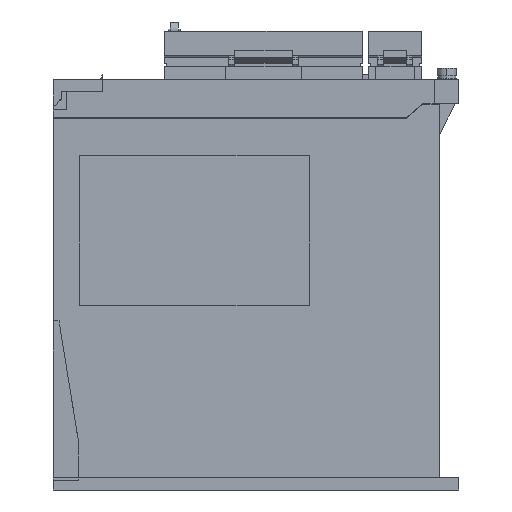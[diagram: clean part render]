
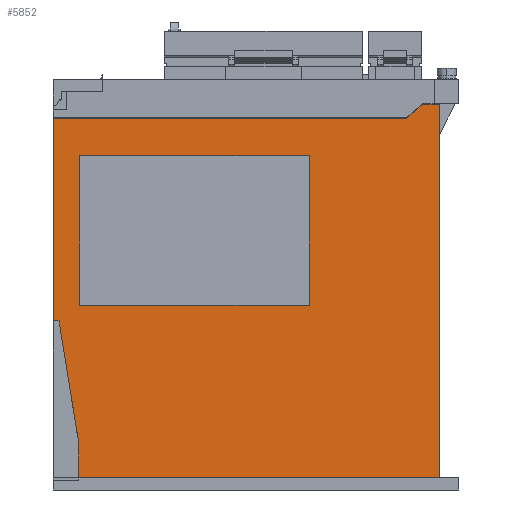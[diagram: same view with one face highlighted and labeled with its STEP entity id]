
A CAD part, left-side view. The second image highlights one B-rep face of the part: STEP entity #5852.
In plain terms, the highlighted planar face has unit normal (-1, 0, 0).
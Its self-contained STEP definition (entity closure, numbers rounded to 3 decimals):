
#1011 = VERTEX_POINT ( 'NONE', #20368 ) ;
#3157 = VERTEX_POINT ( 'NONE', #24053 ) ;
#3159 = EDGE_CURVE ( 'NONE', #3157, #3160, #24052, .T. ) ;
#3160 = VERTEX_POINT ( 'NONE', #24048 ) ;
#3404 = VERTEX_POINT ( 'NONE', #24467 ) ;
#3406 = EDGE_CURVE ( 'NONE', #3404, #3407, #24466, .T. ) ;
#3407 = VERTEX_POINT ( 'NONE', #24462 ) ;
#3655 = VERTEX_POINT ( 'NONE', #24882 ) ;
#3780 = VERTEX_POINT ( 'NONE', #25123 ) ;
#3782 = EDGE_CURVE ( 'NONE', #3655, #3780, #25122, .T. ) ;
#5643 = VERTEX_POINT ( 'NONE', #28388 ) ;
#5824 = ORIENTED_EDGE ( 'NONE', *, *, #5825, .T. ) ;
#5825 = EDGE_CURVE ( 'NONE', #1011, #3160, #28657, .T. ) ;
#5829 = ORIENTED_EDGE ( 'NONE', *, *, #5830, .F. ) ;
#5830 = EDGE_CURVE ( 'NONE', #5831, #5643, #28647, .T. ) ;
#5831 = VERTEX_POINT ( 'NONE', #28706 ) ;
#5832 = ORIENTED_EDGE ( 'NONE', *, *, #5833, .F. ) ;
#5833 = EDGE_CURVE ( 'NONE', #5857, #5831, #28705, .T. ) ;
#5834 = EDGE_LOOP ( 'NONE', ( #5835, #5836, #5839, #5842, #5909, #5910, #5912, #5913, #5824 ) ) ;
#5835 = ORIENTED_EDGE ( 'NONE', *, *, #3159, .F. ) ;
#5836 = ORIENTED_EDGE ( 'NONE', *, *, #5837, .F. ) ;
#5837 = EDGE_CURVE ( 'NONE', #5838, #3157, #28701, .T. ) ;
#5838 = VERTEX_POINT ( 'NONE', #28697 ) ;
#5839 = ORIENTED_EDGE ( 'NONE', *, *, #5840, .F. ) ;
#5840 = EDGE_CURVE ( 'NONE', #5841, #5838, #28696, .T. ) ;
#5841 = VERTEX_POINT ( 'NONE', #28692 ) ;
#5842 = ORIENTED_EDGE ( 'NONE', *, *, #5908, .F. ) ;
#5852 = ADVANCED_FACE ( 'NONE', ( #28677, #28740 ), #28739, .F. ) ;
#5853 = EDGE_LOOP ( 'NONE', ( #5854, #5858, #5829, #5832 ) ) ;
#5854 = ORIENTED_EDGE ( 'NONE', *, *, #5855, .F. ) ;
#5855 = EDGE_CURVE ( 'NONE', #5856, #5857, #28734, .T. ) ;
#5856 = VERTEX_POINT ( 'NONE', #28730 ) ;
#5857 = VERTEX_POINT ( 'NONE', #28729 ) ;
#5858 = ORIENTED_EDGE ( 'NONE', *, *, #5859, .F. ) ;
#5859 = EDGE_CURVE ( 'NONE', #5643, #5856, #28728, .T. ) ;
#5908 = EDGE_CURVE ( 'NONE', #3655, #5841, #28777, .T. ) ;
#5909 = ORIENTED_EDGE ( 'NONE', *, *, #3782, .T. ) ;
#5910 = ORIENTED_EDGE ( 'NONE', *, *, #5911, .T. ) ;
#5911 = EDGE_CURVE ( 'NONE', #3780, #3407, #28773, .T. ) ;
#5912 = ORIENTED_EDGE ( 'NONE', *, *, #3406, .F. ) ;
#5913 = ORIENTED_EDGE ( 'NONE', *, *, #5914, .T. ) ;
#5914 = EDGE_CURVE ( 'NONE', #3404, #1011, #28835, .T. ) ;
#20368 = CARTESIAN_POINT ( 'NONE',  ( -5., -5.5, 5.2 ) ) ;
#24048 = CARTESIAN_POINT ( 'NONE',  ( -5., -155., 5.2 ) ) ;
#24049 = DIRECTION ( 'NONE',  ( 0., 0., -1. ) ) ;
#24050 = VECTOR ( 'NONE', #24049, 1000. ) ;
#24051 = CARTESIAN_POINT ( 'NONE',  ( -5., -155., 318.924 ) ) ;
#24052 = LINE ( 'NONE', #24051, #24050 ) ;
#24053 = CARTESIAN_POINT ( 'NONE',  ( -5., -155., 159.8 ) ) ;
#24462 = CARTESIAN_POINT ( 'NONE',  ( -5., 2.577, 70. ) ) ;
#24463 = DIRECTION ( 'NONE',  ( 0., 0.159, 0.987 ) ) ;
#24464 = VECTOR ( 'NONE', #24463, 1000. ) ;
#24465 = CARTESIAN_POINT ( 'NONE',  ( -5., -5.5, 20. ) ) ;
#24466 = LINE ( 'NONE', #24465, #24464 ) ;
#24467 = CARTESIAN_POINT ( 'NONE',  ( -5., -5.5, 20. ) ) ;
#24882 = CARTESIAN_POINT ( 'NONE',  ( -5., 5., 154. ) ) ;
#25119 = DIRECTION ( 'NONE',  ( 0., 0., -1. ) ) ;
#25120 = VECTOR ( 'NONE', #25119, 1000. ) ;
#25121 = CARTESIAN_POINT ( 'NONE',  ( -5., 5., 318.924 ) ) ;
#25122 = LINE ( 'NONE', #25121, #25120 ) ;
#25123 = CARTESIAN_POINT ( 'NONE',  ( -5., 5., 70. ) ) ;
#28388 = CARTESIAN_POINT ( 'NONE',  ( -5., -6., 138.5 ) ) ;
#28645 = DIRECTION ( 'NONE',  ( 0., 1., 0. ) ) ;
#28646 = CARTESIAN_POINT ( 'NONE',  ( -5., -6., 138.5 ) ) ;
#28647 = LINE ( 'NONE', #28646, #28707 ) ;
#28654 = DIRECTION ( 'NONE',  ( 0., -1., 0. ) ) ;
#28655 = VECTOR ( 'NONE', #28654, 1000. ) ;
#28656 = CARTESIAN_POINT ( 'NONE',  ( -5., -5.5, 5.2 ) ) ;
#28657 = LINE ( 'NONE', #28656, #28655 ) ;
#28677 = FACE_BOUND ( 'NONE', #5853, .T. ) ;
#28692 = CARTESIAN_POINT ( 'NONE',  ( -5., -141.328, 154. ) ) ;
#28693 = DIRECTION ( 'NONE',  ( 0., -0.755, 0.656 ) ) ;
#28694 = VECTOR ( 'NONE', #28693, 1000. ) ;
#28695 = CARTESIAN_POINT ( 'NONE',  ( -5., -141.328, 154. ) ) ;
#28696 = LINE ( 'NONE', #28695, #28694 ) ;
#28697 = CARTESIAN_POINT ( 'NONE',  ( -5., -148., 159.8 ) ) ;
#28698 = DIRECTION ( 'NONE',  ( 0., -1., 0. ) ) ;
#28699 = VECTOR ( 'NONE', #28698, 1000. ) ;
#28700 = CARTESIAN_POINT ( 'NONE',  ( -5., -153., 159.8 ) ) ;
#28701 = LINE ( 'NONE', #28700, #28699 ) ;
#28702 = DIRECTION ( 'NONE',  ( 0., 0., 1. ) ) ;
#28703 = VECTOR ( 'NONE', #28702, 1000. ) ;
#28704 = CARTESIAN_POINT ( 'NONE',  ( -5., -101., 76.5 ) ) ;
#28705 = LINE ( 'NONE', #28704, #28703 ) ;
#28706 = CARTESIAN_POINT ( 'NONE',  ( -5., -101., 138.5 ) ) ;
#28707 = VECTOR ( 'NONE', #28645, 1000. ) ;
#28725 = DIRECTION ( 'NONE',  ( 0., 0., -1. ) ) ;
#28726 = VECTOR ( 'NONE', #28725, 1000. ) ;
#28727 = CARTESIAN_POINT ( 'NONE',  ( -5., -6., 76.5 ) ) ;
#28728 = LINE ( 'NONE', #28727, #28726 ) ;
#28729 = CARTESIAN_POINT ( 'NONE',  ( -5., -101., 76.5 ) ) ;
#28730 = CARTESIAN_POINT ( 'NONE',  ( -5., -6., 76.5 ) ) ;
#28731 = DIRECTION ( 'NONE',  ( 0., -1., 0. ) ) ;
#28732 = VECTOR ( 'NONE', #28731, 1000. ) ;
#28733 = CARTESIAN_POINT ( 'NONE',  ( -5., -6., 76.5 ) ) ;
#28734 = LINE ( 'NONE', #28733, #28732 ) ;
#28735 = DIRECTION ( 'NONE',  ( 0., 1., 0. ) ) ;
#28736 = DIRECTION ( 'NONE',  ( 1., 0., 0. ) ) ;
#28737 = CARTESIAN_POINT ( 'NONE',  ( -5., 5., 318.924 ) ) ;
#28738 = AXIS2_PLACEMENT_3D ( 'NONE', #28737, #28736, #28735 ) ;
#28739 = PLANE ( 'NONE',  #28738 ) ;
#28740 = FACE_OUTER_BOUND ( 'NONE', #5834, .T. ) ;
#28771 = VECTOR ( 'NONE', #28836, 1000. ) ;
#28772 = CARTESIAN_POINT ( 'NONE',  ( -5., 5., 70. ) ) ;
#28773 = LINE ( 'NONE', #28772, #28771 ) ;
#28774 = DIRECTION ( 'NONE',  ( 0., -1., 0. ) ) ;
#28775 = VECTOR ( 'NONE', #28774, 1000. ) ;
#28776 = CARTESIAN_POINT ( 'NONE',  ( -5., 13.365, 154. ) ) ;
#28777 = LINE ( 'NONE', #28776, #28775 ) ;
#28832 = DIRECTION ( 'NONE',  ( 0., 0., -1. ) ) ;
#28833 = VECTOR ( 'NONE', #28832, 1000. ) ;
#28834 = CARTESIAN_POINT ( 'NONE',  ( -5., -5.5, 20. ) ) ;
#28835 = LINE ( 'NONE', #28834, #28833 ) ;
#28836 = DIRECTION ( 'NONE',  ( 0., -1., 0. ) ) ;
